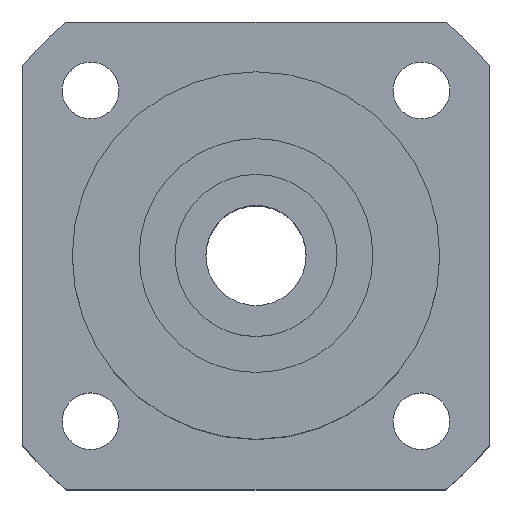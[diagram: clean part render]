
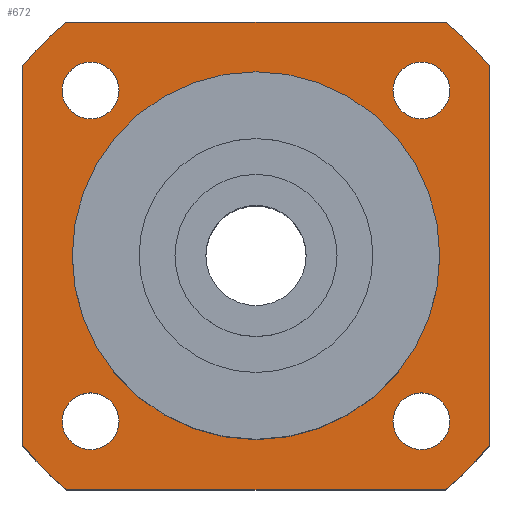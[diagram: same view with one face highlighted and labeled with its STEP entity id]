
A CAD part, top view. The second image highlights one B-rep face of the part: STEP entity #672.
In plain terms, the highlighted planar face has unit normal (0, 0, 1).
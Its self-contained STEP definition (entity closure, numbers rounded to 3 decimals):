
#35=LINE($,#1260,#67);
#38=LINE($,#1268,#70);
#41=LINE($,#1276,#73);
#44=LINE($,#1283,#76);
#67=VECTOR($,#932,22.627);
#70=VECTOR($,#941,22.627);
#73=VECTOR($,#950,22.627);
#76=VECTOR($,#959,22.627);
#180=FACE_BOUND($,#260,.T.);
#181=FACE_BOUND($,#261,.T.);
#182=FACE_BOUND($,#262,.T.);
#183=FACE_BOUND($,#263,.T.);
#184=FACE_BOUND($,#264,.T.);
#185=FACE_BOUND($,#265,.T.);
#260=EDGE_LOOP($,(#599));
#261=EDGE_LOOP($,(#600));
#262=EDGE_LOOP($,(#601));
#263=EDGE_LOOP($,(#602));
#264=EDGE_LOOP($,(#603));
#265=EDGE_LOOP($,(#604,#605,#606,#607,#608,#609,#610,#611));
#292=CIRCLE($,#724,1.7);
#295=CIRCLE($,#730,1.7);
#298=CIRCLE($,#736,1.7);
#301=CIRCLE($,#742,1.7);
#303=CIRCLE($,#745,11.);
#304=CIRCLE($,#748,18.);
#305=CIRCLE($,#751,18.);
#306=CIRCLE($,#754,18.);
#307=CIRCLE($,#757,18.);
#352=VERTEX_POINT($,#1217);
#355=VERTEX_POINT($,#1226);
#358=VERTEX_POINT($,#1235);
#361=VERTEX_POINT($,#1244);
#363=VERTEX_POINT($,#1249);
#364=VERTEX_POINT($,#1253);
#365=VERTEX_POINT($,#1255);
#366=VERTEX_POINT($,#1259);
#367=VERTEX_POINT($,#1263);
#368=VERTEX_POINT($,#1267);
#369=VERTEX_POINT($,#1271);
#370=VERTEX_POINT($,#1275);
#371=VERTEX_POINT($,#1279);
#424=EDGE_CURVE($,#352,#352,#292,.T.);
#427=EDGE_CURVE($,#355,#355,#295,.T.);
#430=EDGE_CURVE($,#358,#358,#298,.T.);
#433=EDGE_CURVE($,#361,#361,#301,.T.);
#435=EDGE_CURVE($,#363,#363,#303,.T.);
#437=EDGE_CURVE($,#365,#364,#304,.T.);
#439=EDGE_CURVE($,#366,#365,#35,.T.);
#441=EDGE_CURVE($,#367,#366,#305,.T.);
#443=EDGE_CURVE($,#368,#367,#38,.T.);
#445=EDGE_CURVE($,#369,#368,#306,.T.);
#447=EDGE_CURVE($,#370,#369,#41,.T.);
#449=EDGE_CURVE($,#371,#370,#307,.T.);
#451=EDGE_CURVE($,#364,#371,#44,.T.);
#599=ORIENTED_EDGE($,*,*,#424,.T.);
#600=ORIENTED_EDGE($,*,*,#427,.T.);
#601=ORIENTED_EDGE($,*,*,#430,.T.);
#602=ORIENTED_EDGE($,*,*,#433,.T.);
#603=ORIENTED_EDGE($,*,*,#435,.T.);
#604=ORIENTED_EDGE($,*,*,#451,.T.);
#605=ORIENTED_EDGE($,*,*,#449,.T.);
#606=ORIENTED_EDGE($,*,*,#447,.T.);
#607=ORIENTED_EDGE($,*,*,#445,.T.);
#608=ORIENTED_EDGE($,*,*,#443,.T.);
#609=ORIENTED_EDGE($,*,*,#441,.T.);
#610=ORIENTED_EDGE($,*,*,#439,.T.);
#611=ORIENTED_EDGE($,*,*,#437,.T.);
#630=PLANE($,#759);
#672=ADVANCED_FACE($,(#180,#181,#182,#183,#184,#185),#630,.T.);
#724=AXIS2_PLACEMENT_3D($,#1218,#878,#879);
#730=AXIS2_PLACEMENT_3D($,#1227,#890,#891);
#736=AXIS2_PLACEMENT_3D($,#1236,#902,#903);
#742=AXIS2_PLACEMENT_3D($,#1245,#914,#915);
#745=AXIS2_PLACEMENT_3D($,#1250,#920,#921);
#748=AXIS2_PLACEMENT_3D($,#1256,#927,#928);
#751=AXIS2_PLACEMENT_3D($,#1264,#936,#937);
#754=AXIS2_PLACEMENT_3D($,#1272,#945,#946);
#757=AXIS2_PLACEMENT_3D($,#1280,#954,#955);
#759=AXIS2_PLACEMENT_3D($,#1284,#960,#961);
#878=DIRECTION('center_axis',(0.,0.,-1.));
#879=DIRECTION('ref_axis',(-1.,0.,0.));
#890=DIRECTION('center_axis',(0.,0.,-1.));
#891=DIRECTION('ref_axis',(-1.,0.,0.));
#902=DIRECTION('center_axis',(0.,0.,-1.));
#903=DIRECTION('ref_axis',(-1.,0.,0.));
#914=DIRECTION('center_axis',(0.,0.,-1.));
#915=DIRECTION('ref_axis',(-1.,0.,0.));
#920=DIRECTION('center_axis',(0.,0.,-1.));
#921=DIRECTION('ref_axis',(-1.,0.,0.));
#927=DIRECTION('center_axis',(0.,0.,1.));
#928=DIRECTION('ref_axis',(-0.629,0.778,0.));
#932=DIRECTION($,(-1.,0.,0.));
#936=DIRECTION('center_axis',(0.,0.,1.));
#937=DIRECTION('ref_axis',(0.778,0.629,0.));
#941=DIRECTION($,(0.,1.,0.));
#945=DIRECTION('center_axis',(0.,0.,1.));
#946=DIRECTION('ref_axis',(0.629,-0.778,0.));
#950=DIRECTION($,(1.,0.,0.));
#954=DIRECTION('center_axis',(0.,0.,1.));
#955=DIRECTION('ref_axis',(-0.778,-0.629,0.));
#959=DIRECTION($,(0.,-1.,0.));
#960=DIRECTION('center_axis',(0.,0.,1.));
#961=DIRECTION('ref_axis',(1.,0.,0.));
#1217=CARTESIAN_POINT('',(-8.199,-9.899,7.));
#1218=CARTESIAN_POINT('Origin',(-9.899,-9.899,7.));
#1226=CARTESIAN_POINT('',(11.599,9.899,7.));
#1227=CARTESIAN_POINT('Origin',(9.899,9.899,7.));
#1235=CARTESIAN_POINT('',(11.599,-9.899,7.));
#1236=CARTESIAN_POINT('Origin',(9.899,-9.899,7.));
#1244=CARTESIAN_POINT('',(-8.199,9.899,7.));
#1245=CARTESIAN_POINT('Origin',(-9.899,9.899,7.));
#1249=CARTESIAN_POINT('',(11.,0.,7.));
#1250=CARTESIAN_POINT('Origin',(0.,0.,7.));
#1253=CARTESIAN_POINT('',(-14.,11.314,7.));
#1255=CARTESIAN_POINT('',(-11.314,14.,7.));
#1256=CARTESIAN_POINT('Origin',(0.,0.,7.));
#1259=CARTESIAN_POINT('',(11.314,14.,7.));
#1260=CARTESIAN_POINT($,(11.314,14.,7.));
#1263=CARTESIAN_POINT('',(14.,11.314,7.));
#1264=CARTESIAN_POINT('Origin',(0.,0.,7.));
#1267=CARTESIAN_POINT('',(14.,-11.314,7.));
#1268=CARTESIAN_POINT($,(14.,-11.314,7.));
#1271=CARTESIAN_POINT('',(11.314,-14.,7.));
#1272=CARTESIAN_POINT('Origin',(0.,0.,7.));
#1275=CARTESIAN_POINT('',(-11.314,-14.,7.));
#1276=CARTESIAN_POINT($,(-11.314,-14.,7.));
#1279=CARTESIAN_POINT('',(-14.,-11.314,7.));
#1280=CARTESIAN_POINT('Origin',(0.,0.,7.));
#1283=CARTESIAN_POINT($,(-14.,11.314,7.));
#1284=CARTESIAN_POINT('Origin',(0.,0.,
7.));
